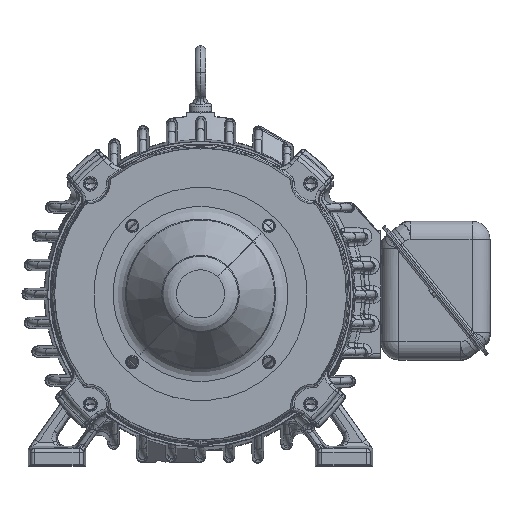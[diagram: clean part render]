
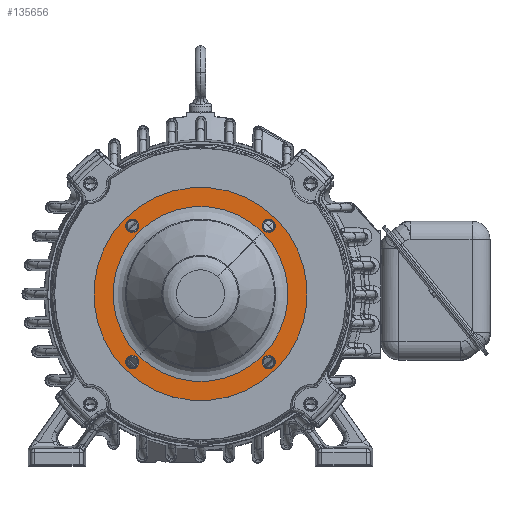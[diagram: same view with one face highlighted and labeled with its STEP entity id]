
A CAD part, top view. The second image highlights one B-rep face of the part: STEP entity #135656.
In plain terms, the highlighted planar face has unit normal (0, 0, 1) as drawn and (-1, 0, 0) by its records, which use the part's own axes.
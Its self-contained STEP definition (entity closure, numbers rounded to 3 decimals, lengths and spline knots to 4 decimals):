
#135231=CARTESIAN_POINT('',(-0.0393,0.,0.));
#135232=DIRECTION('',(-1.,0.,0.));
#135233=DIRECTION('',(0.,1.,0.));
#135234=AXIS2_PLACEMENT_3D('',#135231,#135232,#135233);
#135236=CARTESIAN_POINT('',(-0.0393,0.,0.));
#135237=DIRECTION('',(1.,0.,0.));
#135238=DIRECTION('',(0.,1.,0.));
#135239=AXIS2_PLACEMENT_3D('',#135236,#135237,#135238);
#135241=CARTESIAN_POINT('',(-0.0393,0.,2.9375));
#135242=DIRECTION('',(1.,0.,0.));
#135243=DIRECTION('',(0.,1.,0.));
#135244=AXIS2_PLACEMENT_3D('',#135241,#135242,#135243);
#135246=CARTESIAN_POINT('',(-0.0393,0.,2.9375));
#135247=DIRECTION('',(1.,0.,0.));
#135248=DIRECTION('',(0.,-1.,0.));
#135249=AXIS2_PLACEMENT_3D('',#135246,#135247,#135248);
#135251=CARTESIAN_POINT('',(-0.0393,2.9375,0.));
#135252=DIRECTION('',(1.,0.,0.));
#135253=DIRECTION('',(0.,1.,0.));
#135254=AXIS2_PLACEMENT_3D('',#135251,#135252,#135253);
#135256=CARTESIAN_POINT('',(-0.0393,2.9375,0.));
#135257=DIRECTION('',(1.,0.,0.));
#135258=DIRECTION('',(0.,-1.,0.));
#135259=AXIS2_PLACEMENT_3D('',#135256,#135257,#135258);
#135261=CARTESIAN_POINT('',(-0.0393,0.,-2.9375));
#135262=DIRECTION('',(1.,0.,0.));
#135263=DIRECTION('',(0.,1.,0.));
#135264=AXIS2_PLACEMENT_3D('',#135261,#135262,#135263);
#135266=CARTESIAN_POINT('',(-0.0393,0.,-2.9375));
#135267=DIRECTION('',(1.,0.,0.));
#135268=DIRECTION('',(0.,-1.,0.));
#135269=AXIS2_PLACEMENT_3D('',#135266,#135267,#135268);
#135271=CARTESIAN_POINT('',(-0.0393,-2.9375,0.));
#135272=DIRECTION('',(1.,0.,0.));
#135273=DIRECTION('',(0.,1.,0.));
#135274=AXIS2_PLACEMENT_3D('',#135271,#135272,#135273);
#135276=CARTESIAN_POINT('',(-0.0393,-2.9375,0.));
#135277=DIRECTION('',(1.,0.,0.));
#135278=DIRECTION('',(0.,-1.,0.));
#135279=AXIS2_PLACEMENT_3D('',#135276,#135277,#135278);
#135281=CARTESIAN_POINT('',(-0.0393,0.,0.));
#135282=DIRECTION('',(1.,0.,0.));
#135283=DIRECTION('',(0.,1.,0.));
#135284=AXIS2_PLACEMENT_3D('',#135281,#135282,#135283);
#135296=CARTESIAN_POINT('',(-0.0393,0.,0.));
#135297=DIRECTION('',(-1.,0.,0.));
#135298=DIRECTION('',(0.,1.,0.));
#135299=AXIS2_PLACEMENT_3D('',#135296,#135297,#135298);
#135390=CARTESIAN_POINT('',(-0.0393,3.25,0.));
#135392=VERTEX_POINT('',#135390);
#135393=CARTESIAN_POINT('',(-0.0393,2.6647,0.));
#135395=VERTEX_POINT('',#135393);
#135410=CARTESIAN_POINT('',(-0.0393,-3.25,0.));
#135412=VERTEX_POINT('',#135410);
#135413=CARTESIAN_POINT('',(-0.0393,-2.6647,0.));
#135415=VERTEX_POINT('',#135413);
#135437=CARTESIAN_POINT('',(-0.0393,0.203,2.9375));
#135438=CARTESIAN_POINT('',(-0.0393,-0.203,2.9375));
#135439=VERTEX_POINT('',#135437);
#135440=VERTEX_POINT('',#135438);
#135441=CARTESIAN_POINT('',(-0.0393,3.1405,0.));
#135442=CARTESIAN_POINT('',(-0.0393,2.7345,0.));
#135443=VERTEX_POINT('',#135441);
#135444=VERTEX_POINT('',#135442);
#135445=CARTESIAN_POINT('',(-0.0393,0.203,-2.9375));
#135446=CARTESIAN_POINT('',(-0.0393,-0.203,-2.9375));
#135447=VERTEX_POINT('',#135445);
#135448=VERTEX_POINT('',#135446);
#135449=CARTESIAN_POINT('',(-0.0393,-2.7345,0.));
#135450=CARTESIAN_POINT('',(-0.0393,-3.1405,0.));
#135451=VERTEX_POINT('',#135449);
#135452=VERTEX_POINT('',#135450);
#135617=CARTESIAN_POINT('',(-0.0393,0.,0.));
#135618=DIRECTION('',(1.,0.,0.));
#135619=DIRECTION('',(0.,-1.,0.));
#135620=AXIS2_PLACEMENT_3D('',#135617,#135618,#135619);
#135621=PLANE('',#135620);
#135622=ORIENTED_EDGE('',*,*,#135610,.F.);
#135623=ORIENTED_EDGE('',*,*,#135599,.T.);
#135624=EDGE_LOOP('',(#135622,#135623));
#135625=FACE_OUTER_BOUND('',#135624,.F.);
#135627=ORIENTED_EDGE('',*,*,#135626,.F.);
#135629=ORIENTED_EDGE('',*,*,#135628,.T.);
#135630=EDGE_LOOP('',(#135627,#135629));
#135631=FACE_BOUND('',#135630,.F.);
#135633=ORIENTED_EDGE('',*,*,#135632,.F.);
#135635=ORIENTED_EDGE('',*,*,#135634,.F.);
#135636=EDGE_LOOP('',(#135633,#135635));
#135637=FACE_BOUND('',#135636,.F.);
#135639=ORIENTED_EDGE('',*,*,#135638,.F.);
#135641=ORIENTED_EDGE('',*,*,#135640,.F.);
#135642=EDGE_LOOP('',(#135639,#135641));
#135643=FACE_BOUND('',#135642,.F.);
#135645=ORIENTED_EDGE('',*,*,#135644,.F.);
#135647=ORIENTED_EDGE('',*,*,#135646,.F.);
#135648=EDGE_LOOP('',(#135645,#135647));
#135649=FACE_BOUND('',#135648,.F.);
#135651=ORIENTED_EDGE('',*,*,#135650,.F.);
#135653=ORIENTED_EDGE('',*,*,#135652,.F.);
#135654=EDGE_LOOP('',(#135651,#135653));
#135655=FACE_BOUND('',#135654,.F.);
#135656=ADVANCED_FACE('',(#135625,#135631,#135637,#135643,#135649,#135655),
#135621,.F.);
#135235=CIRCLE('',#135234,3.25);
#135240=CIRCLE('',#135239,3.25);
#135245=CIRCLE('',#135244,0.203);
#135250=CIRCLE('',#135249,0.203);
#135255=CIRCLE('',#135254,0.203);
#135260=CIRCLE('',#135259,0.203);
#135265=CIRCLE('',#135264,0.203);
#135270=CIRCLE('',#135269,0.203);
#135275=CIRCLE('',#135274,0.203);
#135280=CIRCLE('',#135279,0.203);
#135285=CIRCLE('',#135284,2.6647);
#135300=CIRCLE('',#135299,2.6647);
#135599=EDGE_CURVE('',#135392,#135412,#135240,.T.);
#135610=EDGE_CURVE('',#135392,#135412,#135235,.T.);
#135626=EDGE_CURVE('',#135395,#135415,#135285,.T.);
#135628=EDGE_CURVE('',#135395,#135415,#135300,.T.);
#135632=EDGE_CURVE('',#135439,#135440,#135245,.T.);
#135634=EDGE_CURVE('',#135440,#135439,#135250,.T.);
#135638=EDGE_CURVE('',#135443,#135444,#135255,.T.);
#135640=EDGE_CURVE('',#135444,#135443,#135260,.T.);
#135644=EDGE_CURVE('',#135447,#135448,#135265,.T.);
#135646=EDGE_CURVE('',#135448,#135447,#135270,.T.);
#135650=EDGE_CURVE('',#135451,#135452,#135275,.T.);
#135652=EDGE_CURVE('',#135452,#135451,#135280,.T.);
